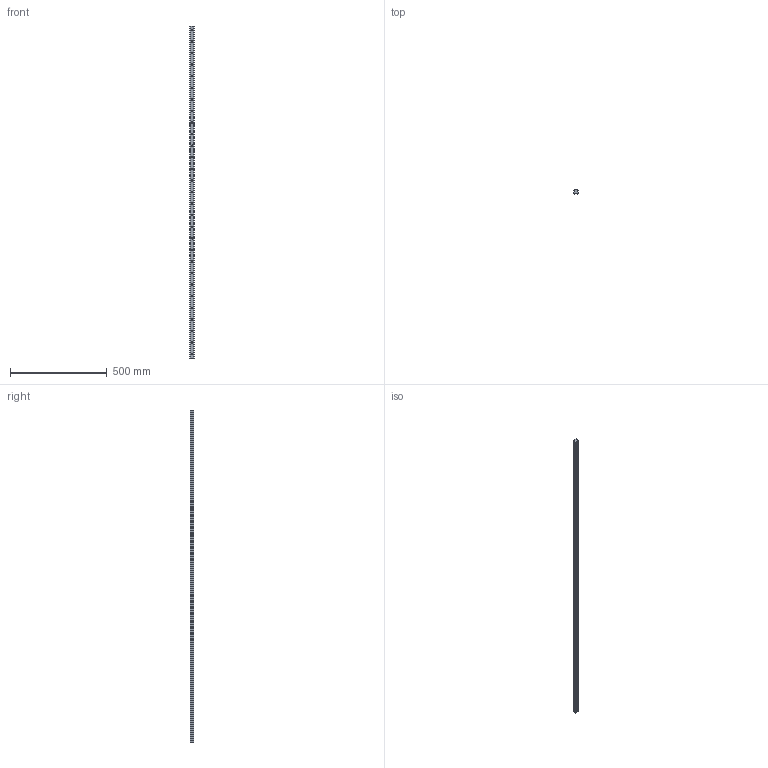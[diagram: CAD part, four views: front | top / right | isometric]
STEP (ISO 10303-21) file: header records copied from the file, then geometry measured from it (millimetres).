
FILE_DESCRIPTION (( 'STEP AP203' ), '1' );
FILE_NAME ('L1016.BL25-1720.step', '2019-06-12T12:08:41', ( '' ), ( '' ), 'SwSTEP 2.0', 'SolidWorks 2017', '' );
FILE_SCHEMA (( 'CONFIG_CONTROL_DESIGN' ));
Length unit declared in the file: millimetre
Products named in the file (1): L1016.BL25-1720
Bounding box: 23 x 19.2 x 1720 mm (x, y, z)
Volume: 633675.7 mm3; surface area: 163125.7 mm2
Topology: 1 solids, 1 shells, 171 faces, 420 edges, 280 vertices
Faces by surface type: cylinder 120, plane 51
Entity records: 5367 total; most frequent: DIRECTION 1004, CARTESIAN_POINT 872, ORIENTED_EDGE 840, EDGE_CURVE 420, AXIS2_PLACEMENT_3D 412, VERTEX_POINT 280, EDGE_LOOP 258, CIRCLE 240
